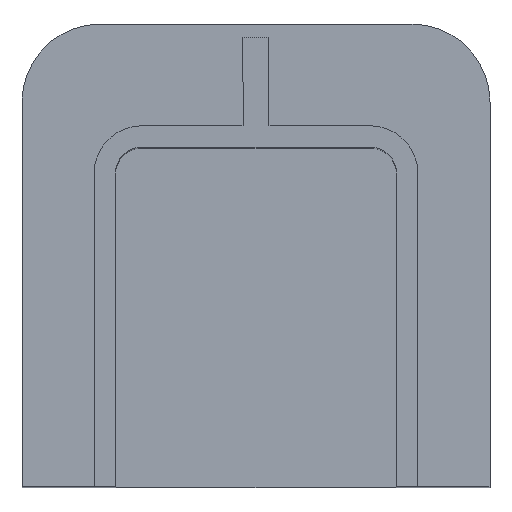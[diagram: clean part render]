
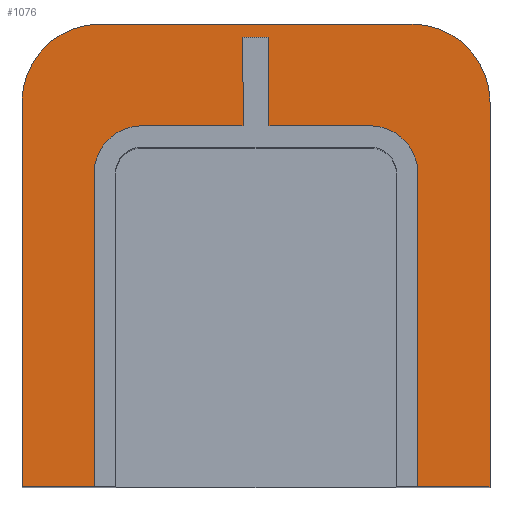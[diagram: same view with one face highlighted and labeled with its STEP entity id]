
A CAD part, top view. The second image highlights one B-rep face of the part: STEP entity #1076.
In plain terms, the highlighted planar face has unit normal (0, 0, 1).
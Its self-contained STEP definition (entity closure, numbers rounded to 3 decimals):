
#11 = EDGE_CURVE ( 'NONE', #262, #586, #662, .T. ) ;
#22 = CARTESIAN_POINT ( 'NONE',  ( 31.1, -44.5, 30. ) ) ;
#24 = EDGE_CURVE ( 'NONE', #884, #1089, #515, .T. ) ;
#34 = PLANE ( 'NONE',  #762 ) ;
#43 = CARTESIAN_POINT ( 'NONE',  ( 31.1, 15.8, 30. ) ) ;
#45 = CARTESIAN_POINT ( 'NONE',  ( -2.5, 24.9, 30. ) ) ;
#46 = EDGE_CURVE ( 'NONE', #489, #767, #894, .T. ) ;
#59 = CARTESIAN_POINT ( 'NONE',  ( -22., 24.9, 30. ) ) ;
#64 = DIRECTION ( 'NONE',  ( 0., 0., 1. ) ) ;
#65 = CARTESIAN_POINT ( 'NONE',  ( 2.5, 24.9, 30. ) ) ;
#80 = DIRECTION ( 'NONE',  ( 0., 0., 1. ) ) ;
#86 = VECTOR ( 'NONE', #478, 1000. ) ;
#145 = CARTESIAN_POINT ( 'NONE',  ( -22., 24.9, 30. ) ) ;
#154 = EDGE_CURVE ( 'NONE', #781, #505, #624, .T. ) ;
#174 = VECTOR ( 'NONE', #252, 1000. ) ;
#183 = LINE ( 'NONE', #705, #597 ) ;
#194 = CARTESIAN_POINT ( 'NONE',  ( 31.1, 15.8, 30. ) ) ;
#203 = ORIENTED_EDGE ( 'NONE', *, *, #356, .T. ) ;
#205 = ORIENTED_EDGE ( 'NONE', *, *, #689, .F. ) ;
#216 = CIRCLE ( 'NONE', #855, 9.1 ) ;
#219 = DIRECTION ( 'NONE',  ( -1., 0., 0. ) ) ;
#252 = DIRECTION ( 'NONE',  ( -1., 0., 0. ) ) ;
#254 = EDGE_CURVE ( 'NONE', #802, #818, #679, .T. ) ;
#258 = VECTOR ( 'NONE', #928, 1000. ) ;
#262 = VERTEX_POINT ( 'NONE', #912 ) ;
#265 = CARTESIAN_POINT ( 'NONE',  ( 45., 29.5, 30. ) ) ;
#266 = AXIS2_PLACEMENT_3D ( 'NONE', #456, #80, #900 ) ;
#278 = ORIENTED_EDGE ( 'NONE', *, *, #11, .F. ) ;
#279 = CARTESIAN_POINT ( 'NONE',  ( -31.1, -44.5, 30. ) ) ;
#316 = ORIENTED_EDGE ( 'NONE', *, *, #740, .F. ) ;
#322 = ORIENTED_EDGE ( 'NONE', *, *, #514, .T. ) ;
#324 = CARTESIAN_POINT ( 'NONE',  ( 30., 44.5, 30. ) ) ;
#335 = EDGE_CURVE ( 'NONE', #365, #489, #810, .T. ) ;
#341 = CARTESIAN_POINT ( 'NONE',  ( 22., 15.8, 30. ) ) ;
#346 = VECTOR ( 'NONE', #910, 1000. ) ;
#356 = EDGE_CURVE ( 'NONE', #818, #781, #622, .T. ) ;
#359 = LINE ( 'NONE', #561, #723 ) ;
#365 = VERTEX_POINT ( 'NONE', #390 ) ;
#367 = CARTESIAN_POINT ( 'NONE',  ( -22., 24.9, 30. ) ) ;
#372 = AXIS2_PLACEMENT_3D ( 'NONE', #969, #615, #699 ) ;
#390 = CARTESIAN_POINT ( 'NONE',  ( -2.5, 41.9, 30. ) ) ;
#391 = VECTOR ( 'NONE', #419, 1000. ) ;
#401 = LINE ( 'NONE', #279, #695 ) ;
#402 = CARTESIAN_POINT ( 'NONE',  ( 0., 0., 30. ) ) ;
#412 = LINE ( 'NONE', #145, #764 ) ;
#419 = DIRECTION ( 'NONE',  ( 0., -1., 0. ) ) ;
#423 = DIRECTION ( 'NONE',  ( -1., 0., 0. ) ) ;
#434 = DIRECTION ( 'NONE',  ( -1., 0., 0. ) ) ;
#435 = ORIENTED_EDGE ( 'NONE', *, *, #46, .F. ) ;
#456 = CARTESIAN_POINT ( 'NONE',  ( 30., 29.5, 30. ) ) ;
#465 = DIRECTION ( 'NONE',  ( 0., 1., 0. ) ) ;
#478 = DIRECTION ( 'NONE',  ( 1., 0., 0. ) ) ;
#481 = EDGE_CURVE ( 'NONE', #550, #262, #412, .T. ) ;
#489 = VERTEX_POINT ( 'NONE', #45 ) ;
#494 = DIRECTION ( 'NONE',  ( -1., 0., 0. ) ) ;
#505 = VERTEX_POINT ( 'NONE', #324 ) ;
#513 = VECTOR ( 'NONE', #494, 1000. ) ;
#514 = EDGE_CURVE ( 'NONE', #1089, #987, #825, .T. ) ;
#515 = CIRCLE ( 'NONE', #372, 15. ) ;
#522 = DIRECTION ( 'NONE',  ( 0., 1., 0. ) ) ;
#525 = CARTESIAN_POINT ( 'NONE',  ( 2.5, 41.9, 30. ) ) ;
#550 = VERTEX_POINT ( 'NONE', #774 ) ;
#561 = CARTESIAN_POINT ( 'NONE',  ( -45., -44.5, 30. ) ) ;
#576 = CARTESIAN_POINT ( 'NONE',  ( -45., 44.5, 30. ) ) ;
#579 = EDGE_CURVE ( 'NONE', #586, #365, #183, .T. ) ;
#582 = CIRCLE ( 'NONE', #1175, 9.1 ) ;
#583 = ORIENTED_EDGE ( 'NONE', *, *, #1128, .T. ) ;
#586 = VERTEX_POINT ( 'NONE', #525 ) ;
#590 = CARTESIAN_POINT ( 'NONE',  ( -45., -44.5, 30. ) ) ;
#597 = VECTOR ( 'NONE', #970, 1000. ) ;
#601 = ORIENTED_EDGE ( 'NONE', *, *, #481, .F. ) ;
#613 = CARTESIAN_POINT ( 'NONE',  ( -31.1, -44.5, 30. ) ) ;
#615 = DIRECTION ( 'NONE',  ( 0., 0., 1. ) ) ;
#622 = LINE ( 'NONE', #849, #258 ) ;
#624 = CIRCLE ( 'NONE', #266, 15. ) ;
#626 = EDGE_CURVE ( 'NONE', #767, #1054, #216, .T. ) ;
#641 = VERTEX_POINT ( 'NONE', #613 ) ;
#643 = CARTESIAN_POINT ( 'NONE',  ( 45., -44.5, 30. ) ) ;
#650 = ORIENTED_EDGE ( 'NONE', *, *, #953, .F. ) ;
#662 = LINE ( 'NONE', #65, #1017 ) ;
#679 = LINE ( 'NONE', #919, #86 ) ;
#689 = EDGE_CURVE ( 'NONE', #1021, #550, #582, .T. ) ;
#692 = LINE ( 'NONE', #576, #513 ) ;
#695 = VECTOR ( 'NONE', #1174, 1000. ) ;
#699 = DIRECTION ( 'NONE',  ( -1., 0., 0. ) ) ;
#705 = CARTESIAN_POINT ( 'NONE',  ( 2.5, 41.9, 30. ) ) ;
#707 = DIRECTION ( 'NONE',  ( 0., 0., 1. ) ) ;
#710 = VECTOR ( 'NONE', #465, 1000. ) ;
#723 = VECTOR ( 'NONE', #922, 1000. ) ;
#739 = LINE ( 'NONE', #194, #710 ) ;
#740 = EDGE_CURVE ( 'NONE', #1054, #641, #401, .T. ) ;
#762 = AXIS2_PLACEMENT_3D ( 'NONE', #402, #943, #219 ) ;
#764 = VECTOR ( 'NONE', #423, 1000. ) ;
#766 = CARTESIAN_POINT ( 'NONE',  ( -45., -44.5, 30. ) ) ;
#767 = VERTEX_POINT ( 'NONE', #367 ) ;
#774 = CARTESIAN_POINT ( 'NONE',  ( 22., 24.9, 30. ) ) ;
#781 = VERTEX_POINT ( 'NONE', #265 ) ;
#799 = ORIENTED_EDGE ( 'NONE', *, *, #254, .T. ) ;
#800 = ORIENTED_EDGE ( 'NONE', *, *, #24, .T. ) ;
#802 = VERTEX_POINT ( 'NONE', #22 ) ;
#804 = ORIENTED_EDGE ( 'NONE', *, *, #626, .F. ) ;
#810 = LINE ( 'NONE', #837, #346 ) ;
#818 = VERTEX_POINT ( 'NONE', #643 ) ;
#825 = LINE ( 'NONE', #590, #391 ) ;
#830 = CARTESIAN_POINT ( 'NONE',  ( -30., 44.5, 30. ) ) ;
#837 = CARTESIAN_POINT ( 'NONE',  ( -2.5, 41.9, 30. ) ) ;
#849 = CARTESIAN_POINT ( 'NONE',  ( 45., -44.5, 30. ) ) ;
#855 = AXIS2_PLACEMENT_3D ( 'NONE', #1066, #707, #434 ) ;
#884 = VERTEX_POINT ( 'NONE', #830 ) ;
#889 = EDGE_CURVE ( 'NONE', #987, #641, #359, .T. ) ;
#894 = LINE ( 'NONE', #59, #174 ) ;
#896 = ORIENTED_EDGE ( 'NONE', *, *, #889, .T. ) ;
#897 = ORIENTED_EDGE ( 'NONE', *, *, #579, .F. ) ;
#900 = DIRECTION ( 'NONE',  ( -1., 0., 0. ) ) ;
#910 = DIRECTION ( 'NONE',  ( 0., -1., 0. ) ) ;
#912 = CARTESIAN_POINT ( 'NONE',  ( 2.5, 24.9, 30. ) ) ;
#919 = CARTESIAN_POINT ( 'NONE',  ( -45., -44.5, 30. ) ) ;
#922 = DIRECTION ( 'NONE',  ( 1., 0., 0. ) ) ;
#928 = DIRECTION ( 'NONE',  ( 0., 1., 0. ) ) ;
#938 = CARTESIAN_POINT ( 'NONE',  ( -31.1, 15.8, 30. ) ) ;
#943 = DIRECTION ( 'NONE',  ( 0., 0., -1. ) ) ;
#953 = EDGE_CURVE ( 'NONE', #802, #1021, #739, .T. ) ;
#964 = ORIENTED_EDGE ( 'NONE', *, *, #154, .T. ) ;
#969 = CARTESIAN_POINT ( 'NONE',  ( -30., 29.5, 30. ) ) ;
#970 = DIRECTION ( 'NONE',  ( -1., 0., 0. ) ) ;
#987 = VERTEX_POINT ( 'NONE', #766 ) ;
#1016 = FACE_OUTER_BOUND ( 'NONE', #1099, .T. ) ;
#1017 = VECTOR ( 'NONE', #522, 1000. ) ;
#1021 = VERTEX_POINT ( 'NONE', #43 ) ;
#1054 = VERTEX_POINT ( 'NONE', #938 ) ;
#1064 = ORIENTED_EDGE ( 'NONE', *, *, #335, .F. ) ;
#1066 = CARTESIAN_POINT ( 'NONE',  ( -22., 15.8, 30. ) ) ;
#1076 = ADVANCED_FACE ( 'NONE', ( #1016 ), #34, .F. ) ;
#1089 = VERTEX_POINT ( 'NONE', #1131 ) ;
#1099 = EDGE_LOOP ( 'NONE', ( #1064, #897, #278, #601, #205, #650, #799, #203, #964, #583, #800, #322, #896, #316, #804, #435 ) ) ;
#1128 = EDGE_CURVE ( 'NONE', #505, #884, #692, .T. ) ;
#1131 = CARTESIAN_POINT ( 'NONE',  ( -45., 29.5, 30. ) ) ;
#1166 = DIRECTION ( 'NONE',  ( -1., 0., 0. ) ) ;
#1174 = DIRECTION ( 'NONE',  ( 0., -1., 0. ) ) ;
#1175 = AXIS2_PLACEMENT_3D ( 'NONE', #341, #64, #1166 ) ;
